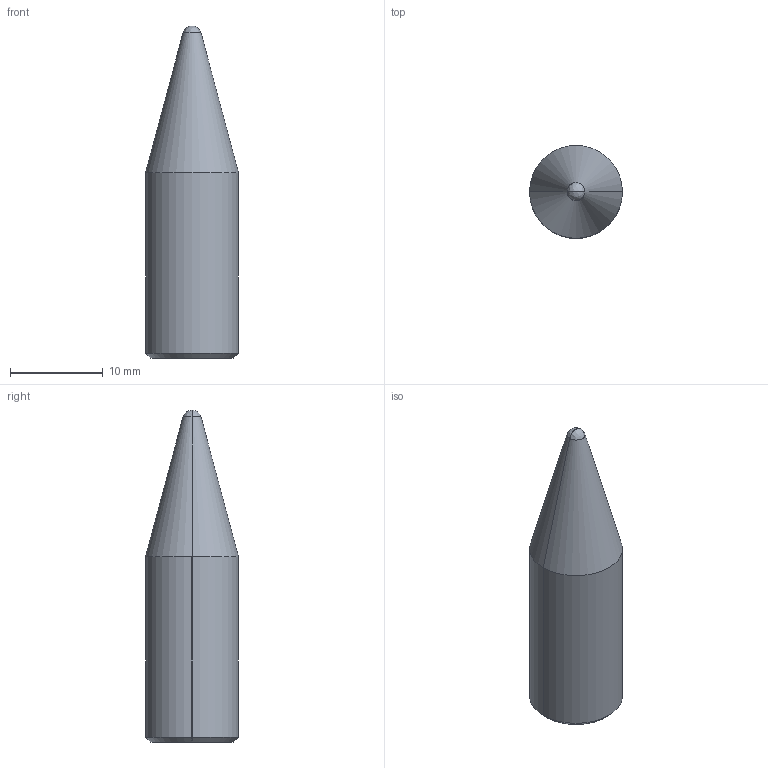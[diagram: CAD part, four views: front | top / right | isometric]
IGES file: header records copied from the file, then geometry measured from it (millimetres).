
Global section: file name: E:\UnigraphicsGraphicData\MISUMI_PRESS-PARTS\IGES\3d_snst10-b20_03106_r00.igs; native system: NX V5.0; preprocessor: UGS NX IGES V5.0; author: MISUMI; date: 20110105.162851; units: millimetre
Bounding box: 10 x 10 x 35.8 mm (x, y, z)
Surface area: 1151.4 mm2 (no closed solid volume)
Topology: 0 solids, 0 shells, 12 faces, 64 edges, 62 vertices
Faces by surface type: bspline 12
